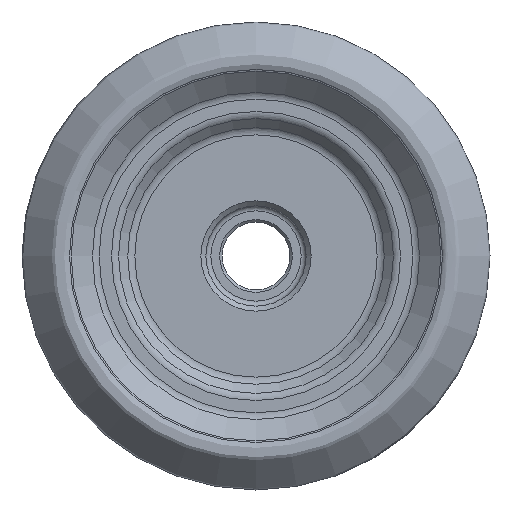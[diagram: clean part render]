
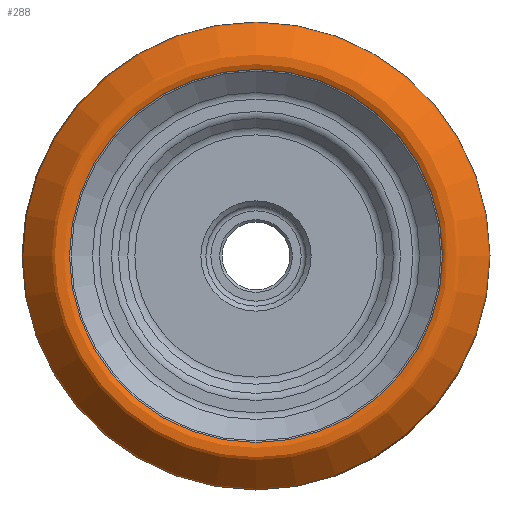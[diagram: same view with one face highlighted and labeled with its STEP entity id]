
A CAD part, left-side view. The second image highlights one B-rep face of the part: STEP entity #288.
In plain terms, the highlighted face is a revolution surface.
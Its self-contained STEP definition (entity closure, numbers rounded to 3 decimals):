
#64=SURFACE_OF_REVOLUTION('',#157,#65);
#65=AXIS1_PLACEMENT('',#1796,#1254);
#66=VERTEX_LOOP('',#745);
#157=B_SPLINE_CURVE_WITH_KNOTS('',3,(#1724,#1725,#1726,#1727,#1728,#1729,
#1730,#1731,#1732,#1733,#1734,#1735,#1736,#1737,#1738,#1739,#1740,#1741,
#1742,#1743,#1744,#1745,#1746,#1747,#1748,#1749,#1750,#1751,#1752,#1753,
#1754,#1755,#1756,#1757,#1758,#1759,#1760,#1761,#1762,#1763,#1764,#1765,
#1766,#1767,#1768,#1769,#1770,#1771,#1772,#1773,#1774,#1775,#1776,#1777,
#1778,#1779,#1780,#1781,#1782,#1783,#1784,#1785,#1786,#1787,#1788,#1789,
#1790,#1791,#1792,#1793,#1794,#1795),.UNSPECIFIED.,.T.,.F.,(2,2,2,2,2,2,
2,1,2,2,2,2,2,2,2,2,2,2,1,2,2,2,2,2,2,2,2,2,2,2,2,2,2,2,2,2,2,2,2),(-0.031,
0.,0.016,0.031,0.047,0.063,
0.078,0.094,0.125,0.25,
0.266,0.281,0.297,0.313,
0.328,0.344,0.375,0.438,
0.469,0.484,0.5,0.516,
0.531,0.547,0.563,0.594,
0.625,0.75,0.766,0.781,
0.797,0.813,0.828,0.844,
0.875,0.938,0.969,1.,1.016),
 .UNSPECIFIED.);
#228=FACE_BOUND('',#66,.T.);
#288=ADVANCED_FACE('',(#228),#64,.T.);
#745=VERTEX_POINT('',#1723);
#1254=DIRECTION('',(-1.,0.,0.));
#1723=CARTESIAN_POINT('',(0.388,-40.712,0.));
#1724=CARTESIAN_POINT('',(0.744,-41.062,0.));
#1725=CARTESIAN_POINT('',(0.21,-40.537,0.));
#1726=CARTESIAN_POINT('',(0.083,-40.316,0.));
#1727=CARTESIAN_POINT('',(-0.033,-39.837,0.));
#1728=CARTESIAN_POINT('',(-0.013,-39.583,0.));
#1729=CARTESIAN_POINT('',(-0.013,-39.088,0.));
#1730=CARTESIAN_POINT('',(-0.013,-38.84,0.));
#1731=CARTESIAN_POINT('',(-0.014,-38.344,0.));
#1732=CARTESIAN_POINT('',(-0.002,-38.091,0.));
#1733=CARTESIAN_POINT('',(0.173,-37.628,0.));
#1734=CARTESIAN_POINT('',(0.328,-37.427,0.));
#1735=CARTESIAN_POINT('',(0.649,-37.054,0.));
#1736=CARTESIAN_POINT('',(1.13,-36.493,0.));
#1737=CARTESIAN_POINT('',(1.612,-35.932,0.));
#1738=CARTESIAN_POINT('',(3.219,-34.064,0.));
#1739=CARTESIAN_POINT('',(4.505,-32.571,0.));
#1740=CARTESIAN_POINT('',(5.954,-30.891,0.));
#1741=CARTESIAN_POINT('',(6.125,-30.705,0.));
#1742=CARTESIAN_POINT('',(6.556,-30.469,0.));
#1743=CARTESIAN_POINT('',(6.806,-30.438,0.));
#1744=CARTESIAN_POINT('',(7.289,-30.402,0.));
#1745=CARTESIAN_POINT('',(7.531,-30.385,0.));
#1746=CARTESIAN_POINT('',(8.014,-30.35,0.));
#1747=CARTESIAN_POINT('',(8.262,-30.318,0.));
#1748=CARTESIAN_POINT('',(8.727,-30.448,0.));
#1749=CARTESIAN_POINT('',(8.928,-30.599,0.));
#1750=CARTESIAN_POINT('',(9.27,-30.948,0.));
#1751=CARTESIAN_POINT('',(9.44,-31.123,0.));
#1752=CARTESIAN_POINT('',(9.951,-31.649,0.));
#1753=CARTESIAN_POINT('',(10.291,-32.,0.));
#1754=CARTESIAN_POINT('',(11.307,-33.056,0.));
#1755=CARTESIAN_POINT('',(11.981,-33.764,0.));
#1756=CARTESIAN_POINT('',(12.988,-34.828,0.));
#1757=CARTESIAN_POINT('',(13.491,-35.362,0.));
#1758=CARTESIAN_POINT('',(13.992,-35.896,0.));
#1759=CARTESIAN_POINT('',(14.326,-36.253,0.));
#1760=CARTESIAN_POINT('',(14.504,-36.421,0.));
#1761=CARTESIAN_POINT('',(14.806,-36.807,0.));
#1762=CARTESIAN_POINT('',(14.908,-37.04,0.));
#1763=CARTESIAN_POINT('',(14.988,-37.517,0.));
#1764=CARTESIAN_POINT('',(14.969,-37.758,0.));
#1765=CARTESIAN_POINT('',(14.969,-38.238,0.));
#1766=CARTESIAN_POINT('',(14.968,-38.478,0.));
#1767=CARTESIAN_POINT('',(14.969,-38.958,0.));
#1768=CARTESIAN_POINT('',(14.959,-39.198,0.));
#1769=CARTESIAN_POINT('',(14.715,-39.874,0.));
#1770=CARTESIAN_POINT('',(14.332,-40.199,0.));
#1771=CARTESIAN_POINT('',(13.691,-40.915,0.));
#1772=CARTESIAN_POINT('',(13.371,-41.272,0.));
#1773=CARTESIAN_POINT('',(11.77,-43.063,0.));
#1774=CARTESIAN_POINT('',(10.494,-44.499,0.));
#1775=CARTESIAN_POINT('',(9.062,-46.118,0.));
#1776=CARTESIAN_POINT('',(8.906,-46.304,0.));
#1777=CARTESIAN_POINT('',(8.5,-46.555,0.));
#1778=CARTESIAN_POINT('',(8.262,-46.61,0.));
#1779=CARTESIAN_POINT('',(7.783,-46.631,0.));
#1780=CARTESIAN_POINT('',(7.543,-46.642,0.));
#1781=CARTESIAN_POINT('',(7.064,-46.665,0.));
#1782=CARTESIAN_POINT('',(6.825,-46.702,0.));
#1783=CARTESIAN_POINT('',(6.343,-46.616,0.));
#1784=CARTESIAN_POINT('',(6.121,-46.492,0.));
#1785=CARTESIAN_POINT('',(5.776,-46.16,0.));
#1786=CARTESIAN_POINT('',(5.615,-45.983,0.));
#1787=CARTESIAN_POINT('',(5.114,-45.468,0.));
#1788=CARTESIAN_POINT('',(4.78,-45.125,0.));
#1789=CARTESIAN_POINT('',(3.774,-44.099,0.));
#1790=CARTESIAN_POINT('',(3.102,-43.417,0.));
#1791=CARTESIAN_POINT('',(2.088,-42.399,0.));
#1792=CARTESIAN_POINT('',(1.749,-42.06,0.));
#1793=CARTESIAN_POINT('',(1.07,-41.385,0.));
#1794=CARTESIAN_POINT('',(0.744,-41.062,0.));
#1795=CARTESIAN_POINT('',(0.21,-40.537,0.));
#1796=CARTESIAN_POINT('',(0.,0.,0.));
